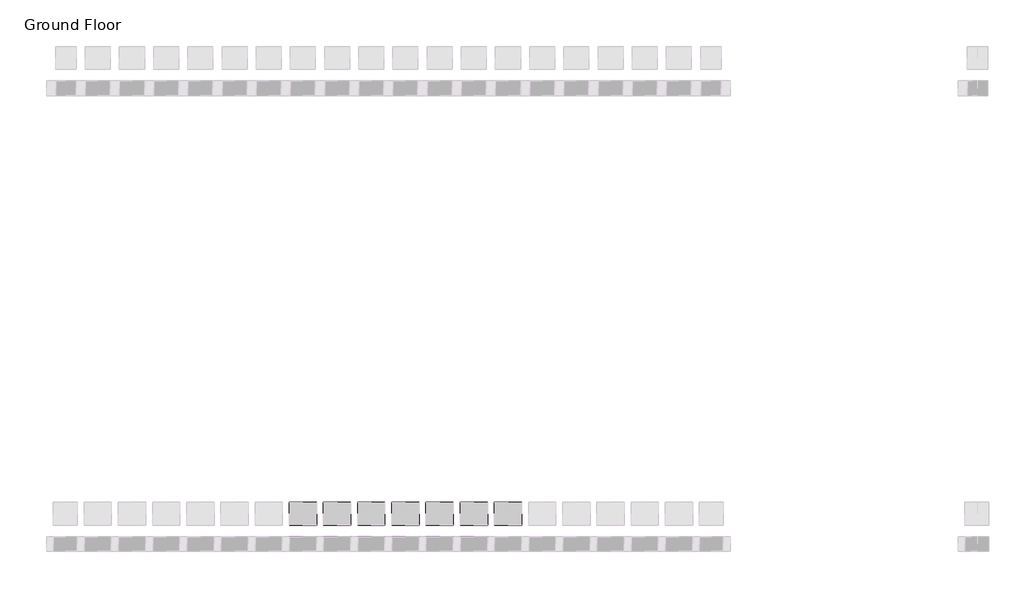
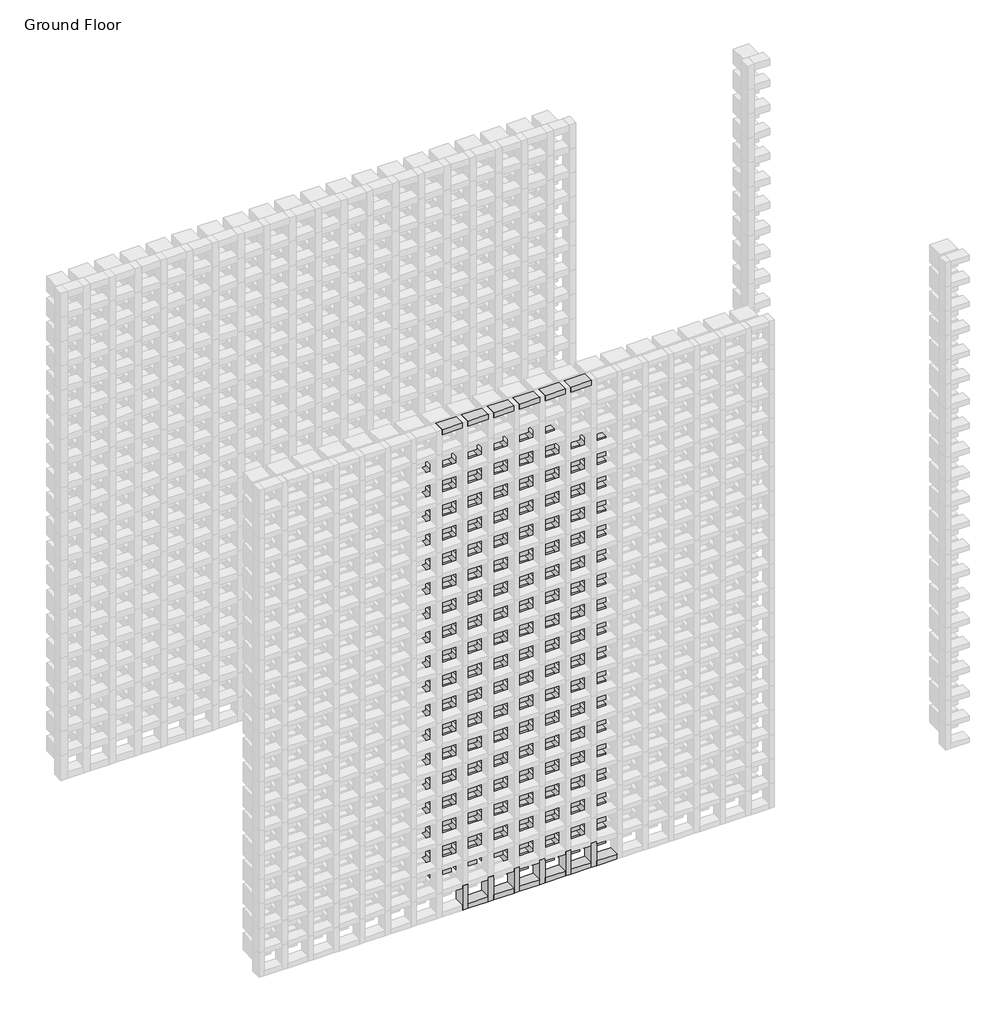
# One storey, part 68 of 350: 121 plates, 18 members.
"""IFC4 building model written with IfcOpenShell, lengths in millimetres."""

from ifc_helpers import new_model, si_unit, origin, place, context, project, spatial, transform, mapped, element, save
from components import rectangular_mullion_5b501421, rectangular_mullion_51467dcc, rectangular_mullion_d4c9a775, empty_system_panel_empty_a57e421f, empty_system_panel_empty_fe50b430

model = new_model("IFC4")

# Units and contexts
model_context = context("Model", 3, world=origin())
ifc_project = project(units=[si_unit("LENGTHUNIT", "METRE", prefix="MILLI")], contexts=[model_context])

# Site, building, storey
site = spatial("IfcSite", under=ifc_project)
building = spatial("IfcBuilding", under=site)
storey = spatial("IfcBuildingStorey", under=building, Name="Ground Floor", Elevation=0.0)

# Members
placement = place(None, origin())
rectangular_mullion_shape = rectangular_mullion_5b501421(model_context)
element("IfcMember", 1, ObjectType="Rectangular Mullion : Batten_Timber_Modinex_Austratus_Grid_Fascia_30x65_Hemlock", at=placement, inside=storey, context=model_context, shape_type="MappedRepresentation", body=[
    mapped(rectangular_mullion_shape, transform((11116.4361642, 38968.2978302, 0.0), x_axis=(1.0, 0.0, 0.0), y_axis=(0.0, -1.0, 0.0), z_axis=(0.0, 0.0, -1.0))),
])
element("IfcMember", 2, ObjectType="Rectangular Mullion : Batten_Timber_Modinex_Austratus_Grid_Fascia_30x65_Hemlock", at=placement, inside=storey, context=model_context, shape_type="MappedRepresentation", body=[
    mapped(rectangular_mullion_shape, transform((11266.4361642, 38968.2978302, 0.0), x_axis=(1.0, 0.0, 0.0), y_axis=(0.0, -1.0, 0.0), z_axis=(0.0, 0.0, -1.0))),
])
element("IfcMember", 3, ObjectType="Rectangular Mullion : Batten_Timber_Modinex_Austratus_Grid_Fascia_30x65_Hemlock", at=placement, inside=storey, context=model_context, shape_type="MappedRepresentation", body=[
    mapped(rectangular_mullion_shape, transform((11416.4361642, 38968.2978302, 0.0), x_axis=(1.0, 0.0, 0.0), y_axis=(0.0, -1.0, 0.0), z_axis=(0.0, 0.0, -1.0))),
])
element("IfcMember", 4, ObjectType="Rectangular Mullion : Batten_Timber_Modinex_Austratus_Grid_Fascia_30x65_Hemlock", at=placement, inside=storey, context=model_context, shape_type="MappedRepresentation", body=[
    mapped(rectangular_mullion_shape, transform((11566.4361642, 38968.2978302, 0.0), x_axis=(1.0, 0.0, 0.0), y_axis=(0.0, -1.0, 0.0), z_axis=(0.0, 0.0, -1.0))),
])
element("IfcMember", 5, ObjectType="Rectangular Mullion : Batten_Timber_Modinex_Austratus_Grid_Fascia_30x65_Hemlock", at=placement, inside=storey, context=model_context, shape_type="MappedRepresentation", body=[
    mapped(rectangular_mullion_shape, transform((11716.4361642, 38968.2978302, 0.0), x_axis=(1.0, 0.0, 0.0), y_axis=(0.0, -1.0, 0.0), z_axis=(0.0, 0.0, -1.0))),
])
element("IfcMember", 6, ObjectType="Rectangular Mullion : Batten_Timber_Modinex_Austratus_Grid_Fascia_30x65_Hemlock", at=placement, inside=storey, context=model_context, shape_type="MappedRepresentation", body=[
    mapped(rectangular_mullion_shape, transform((11866.4361642, 38968.2978302, 0.0), x_axis=(1.0, 0.0, 0.0), y_axis=(0.0, -1.0, 0.0), z_axis=(0.0, 0.0, -1.0))),
])
rectangular_mullion_2_shape = rectangular_mullion_51467dcc(model_context)
element("IfcMember", 7, ObjectType="Rectangular Mullion : Batten_Timber_Modinex_Austratus_Grid_Fascia_30x65_Hemlock", at=placement, inside=storey, context=model_context, shape_type="MappedRepresentation", body=[
    mapped(rectangular_mullion_2_shape, transform((11101.4361642, 38968.2978302, 3000.0), x_axis=(0.0, 0.0, 1.0), y_axis=(0.0, -1.0, 0.0), z_axis=(1.0, 0.0, 0.0))),
])
element("IfcMember", 8, ObjectType="Rectangular Mullion : Batten_Timber_Modinex_Austratus_Grid_Fascia_30x65_Hemlock", at=placement, inside=storey, context=model_context, shape_type="MappedRepresentation", body=[
    mapped(rectangular_mullion_2_shape, transform((11251.4361642, 38968.2978302, 3000.0), x_axis=(0.0, 0.0, 1.0), y_axis=(0.0, -1.0, 0.0), z_axis=(1.0, 0.0, 0.0))),
])
element("IfcMember", 9, ObjectType="Rectangular Mullion : Batten_Timber_Modinex_Austratus_Grid_Fascia_30x65_Hemlock", at=placement, inside=storey, context=model_context, shape_type="MappedRepresentation", body=[
    mapped(rectangular_mullion_2_shape, transform((11401.4361642, 38968.2978302, 3000.0), x_axis=(0.0, 0.0, 1.0), y_axis=(0.0, -1.0, 0.0), z_axis=(1.0, 0.0, 0.0))),
])
element("IfcMember", 10, ObjectType="Rectangular Mullion : Batten_Timber_Modinex_Austratus_Grid_Fascia_30x65_Hemlock", at=placement, inside=storey, context=model_context, shape_type="MappedRepresentation", body=[
    mapped(rectangular_mullion_2_shape, transform((11551.4361642, 38968.2978302, 3000.0), x_axis=(0.0, 0.0, 1.0), y_axis=(0.0, -1.0, 0.0), z_axis=(1.0, 0.0, 0.0))),
])
element("IfcMember", 11, ObjectType="Rectangular Mullion : Batten_Timber_Modinex_Austratus_Grid_Fascia_30x65_Hemlock", at=placement, inside=storey, context=model_context, shape_type="MappedRepresentation", body=[
    mapped(rectangular_mullion_2_shape, transform((11701.4361642, 38968.2978302, 3000.0), x_axis=(0.0, 0.0, 1.0), y_axis=(0.0, -1.0, 0.0), z_axis=(1.0, 0.0, 0.0))),
])
element("IfcMember", 12, ObjectType="Rectangular Mullion : Batten_Timber_Modinex_Austratus_Grid_Fascia_30x65_Hemlock", at=placement, inside=storey, context=model_context, shape_type="MappedRepresentation", body=[
    mapped(rectangular_mullion_2_shape, transform((11851.4361642, 38968.2978302, 3000.0), x_axis=(0.0, 0.0, 1.0), y_axis=(0.0, -1.0, 0.0), z_axis=(1.0, 0.0, 0.0))),
])
rectangular_mullion_3_shape = rectangular_mullion_d4c9a775(model_context)
element("IfcMember", 13, ObjectType="Rectangular Mullion : Batten_Timber_Modinex_Austratus_Grid_Fascia_30x65_Hemlock", at=placement, inside=storey, context=model_context, shape_type="MappedRepresentation", body=[
    mapped(rectangular_mullion_3_shape, transform((11131.4361642, 38968.2978302, 0.0), x_axis=(0.0, 0.0, -1.0), y_axis=(0.0, -1.0, 0.0), z_axis=(-1.0, 0.0, 0.0))),
])
element("IfcMember", 14, ObjectType="Rectangular Mullion : Batten_Timber_Modinex_Austratus_Grid_Fascia_30x65_Hemlock", at=placement, inside=storey, context=model_context, shape_type="MappedRepresentation", body=[
    mapped(rectangular_mullion_3_shape, transform((11281.4361642, 38968.2978302, 0.0), x_axis=(0.0, 0.0, -1.0), y_axis=(0.0, -1.0, 0.0), z_axis=(-1.0, 0.0, 0.0))),
])
element("IfcMember", 15, ObjectType="Rectangular Mullion : Batten_Timber_Modinex_Austratus_Grid_Fascia_30x65_Hemlock", at=placement, inside=storey, context=model_context, shape_type="MappedRepresentation", body=[
    mapped(rectangular_mullion_3_shape, transform((11431.4361642, 38968.2978302, 0.0), x_axis=(0.0, 0.0, -1.0), y_axis=(0.0, -1.0, 0.0), z_axis=(-1.0, 0.0, 0.0))),
])
element("IfcMember", 16, ObjectType="Rectangular Mullion : Batten_Timber_Modinex_Austratus_Grid_Fascia_30x65_Hemlock", at=placement, inside=storey, context=model_context, shape_type="MappedRepresentation", body=[
    mapped(rectangular_mullion_3_shape, transform((11581.4361642, 38968.2978302, 0.0), x_axis=(0.0, 0.0, -1.0), y_axis=(0.0, -1.0, 0.0), z_axis=(-1.0, 0.0, 0.0))),
])
element("IfcMember", 17, ObjectType="Rectangular Mullion : Batten_Timber_Modinex_Austratus_Grid_Fascia_30x65_Hemlock", at=placement, inside=storey, context=model_context, shape_type="MappedRepresentation", body=[
    mapped(rectangular_mullion_3_shape, transform((11731.4361642, 38968.2978302, 0.0), x_axis=(0.0, 0.0, -1.0), y_axis=(0.0, -1.0, 0.0), z_axis=(-1.0, 0.0, 0.0))),
])
element("IfcMember", 18, ObjectType="Rectangular Mullion : Batten_Timber_Modinex_Austratus_Grid_Fascia_30x65_Hemlock", at=placement, inside=storey, context=model_context, shape_type="MappedRepresentation", body=[
    mapped(rectangular_mullion_3_shape, transform((11881.4361642, 38968.2978302, 0.0), x_axis=(0.0, 0.0, -1.0), y_axis=(0.0, -1.0, 0.0), z_axis=(-1.0, 0.0, 0.0))),
])

# Plates
empty_system_panel_empty_shape = empty_system_panel_empty_a57e421f(model_context)
element("IfcPlate", 19, ObjectType="Empty System Panel : Empty", at=placement, inside=storey, context=model_context, shape_type="MappedRepresentation", body=[
    mapped(empty_system_panel_empty_shape, transform((11041.4361642, 38968.2978302, 165.0), x_axis=(1.0, 0.0, 0.0), y_axis=(0.0, 1.0, 0.0), z_axis=(0.0, 0.0, 1.0))),
])
element("IfcPlate", 20, ObjectType="Empty System Panel : Empty", at=placement, inside=storey, context=model_context, shape_type="MappedRepresentation", body=[
    mapped(empty_system_panel_empty_shape, transform((11191.4361642, 38968.2978302, 165.0), x_axis=(1.0, 0.0, 0.0), y_axis=(0.0, 1.0, 0.0), z_axis=(0.0, 0.0, 1.0))),
])
element("IfcPlate", 21, ObjectType="Empty System Panel : Empty", at=placement, inside=storey, context=model_context, shape_type="MappedRepresentation", body=[
    mapped(empty_system_panel_empty_shape, transform((11341.4361642, 38968.2978302, 165.0), x_axis=(1.0, 0.0, 0.0), y_axis=(0.0, 1.0, 0.0), z_axis=(0.0, 0.0, 1.0))),
])
element("IfcPlate", 22, ObjectType="Empty System Panel : Empty", at=placement, inside=storey, context=model_context, shape_type="MappedRepresentation", body=[
    mapped(empty_system_panel_empty_shape, transform((11491.4361642, 38968.2978302, 165.0), x_axis=(1.0, 0.0, 0.0), y_axis=(0.0, 1.0, 0.0), z_axis=(0.0, 0.0, 1.0))),
])
element("IfcPlate", 23, ObjectType="Empty System Panel : Empty", at=placement, inside=storey, context=model_context, shape_type="MappedRepresentation", body=[
    mapped(empty_system_panel_empty_shape, transform((11641.4361642, 38968.2978302, 165.0), x_axis=(1.0, 0.0, 0.0), y_axis=(0.0, 1.0, 0.0), z_axis=(0.0, 0.0, 1.0))),
])
element("IfcPlate", 24, ObjectType="Empty System Panel : Empty", at=placement, inside=storey, context=model_context, shape_type="MappedRepresentation", body=[
    mapped(empty_system_panel_empty_shape, transform((11791.4361642, 38968.2978302, 165.0), x_axis=(1.0, 0.0, 0.0), y_axis=(0.0, 1.0, 0.0), z_axis=(0.0, 0.0, 1.0))),
])
element("IfcPlate", 25, ObjectType="Empty System Panel : Empty", at=placement, inside=storey, context=model_context, shape_type="MappedRepresentation", body=[
    mapped(empty_system_panel_empty_shape, transform((11941.4361642, 38968.2978302, 165.0), x_axis=(1.0, 0.0, 0.0), y_axis=(0.0, 1.0, 0.0), z_axis=(0.0, 0.0, 1.0))),
])
element("IfcPlate", 26, ObjectType="Empty System Panel : Empty", at=placement, inside=storey, context=model_context, shape_type="MappedRepresentation", body=[
    mapped(empty_system_panel_empty_shape, transform((11041.4361642, 38968.2978302, 315.0), x_axis=(1.0, 0.0, 0.0), y_axis=(0.0, 1.0, 0.0), z_axis=(0.0, 0.0, 1.0))),
])
element("IfcPlate", 27, ObjectType="Empty System Panel : Empty", at=placement, inside=storey, context=model_context, shape_type="MappedRepresentation", body=[
    mapped(empty_system_panel_empty_shape, transform((11191.4361642, 38968.2978302, 315.0), x_axis=(1.0, 0.0, 0.0), y_axis=(0.0, 1.0, 0.0), z_axis=(0.0, 0.0, 1.0))),
])
element("IfcPlate", 28, ObjectType="Empty System Panel : Empty", at=placement, inside=storey, context=model_context, shape_type="MappedRepresentation", body=[
    mapped(empty_system_panel_empty_shape, transform((11341.4361642, 38968.2978302, 315.0), x_axis=(1.0, 0.0, 0.0), y_axis=(0.0, 1.0, 0.0), z_axis=(0.0, 0.0, 1.0))),
])
element("IfcPlate", 29, ObjectType="Empty System Panel : Empty", at=placement, inside=storey, context=model_context, shape_type="MappedRepresentation", body=[
    mapped(empty_system_panel_empty_shape, transform((11491.4361642, 38968.2978302, 315.0), x_axis=(1.0, 0.0, 0.0), y_axis=(0.0, 1.0, 0.0), z_axis=(0.0, 0.0, 1.0))),
])
element("IfcPlate", 30, ObjectType="Empty System Panel : Empty", at=placement, inside=storey, context=model_context, shape_type="MappedRepresentation", body=[
    mapped(empty_system_panel_empty_shape, transform((11641.4361642, 38968.2978302, 315.0), x_axis=(1.0, 0.0, 0.0), y_axis=(0.0, 1.0, 0.0), z_axis=(0.0, 0.0, 1.0))),
])
element("IfcPlate", 31, ObjectType="Empty System Panel : Empty", at=placement, inside=storey, context=model_context, shape_type="MappedRepresentation", body=[
    mapped(empty_system_panel_empty_shape, transform((11791.4361642, 38968.2978302, 315.0), x_axis=(1.0, 0.0, 0.0), y_axis=(0.0, 1.0, 0.0), z_axis=(0.0, 0.0, 1.0))),
])
element("IfcPlate", 32, ObjectType="Empty System Panel : Empty", at=placement, inside=storey, context=model_context, shape_type="MappedRepresentation", body=[
    mapped(empty_system_panel_empty_shape, transform((11941.4361642, 38968.2978302, 315.0), x_axis=(1.0, 0.0, 0.0), y_axis=(0.0, 1.0, 0.0), z_axis=(0.0, 0.0, 1.0))),
])
element("IfcPlate", 33, ObjectType="Empty System Panel : Empty", at=placement, inside=storey, context=model_context, shape_type="MappedRepresentation", body=[
    mapped(empty_system_panel_empty_shape, transform((11041.4361642, 38968.2978302, 465.0), x_axis=(1.0, 0.0, 0.0), y_axis=(0.0, 1.0, 0.0), z_axis=(0.0, 0.0, 1.0))),
])
element("IfcPlate", 34, ObjectType="Empty System Panel : Empty", at=placement, inside=storey, context=model_context, shape_type="MappedRepresentation", body=[
    mapped(empty_system_panel_empty_shape, transform((11191.4361642, 38968.2978302, 465.0), x_axis=(1.0, 0.0, 0.0), y_axis=(0.0, 1.0, 0.0), z_axis=(0.0, 0.0, 1.0))),
])
element("IfcPlate", 35, ObjectType="Empty System Panel : Empty", at=placement, inside=storey, context=model_context, shape_type="MappedRepresentation", body=[
    mapped(empty_system_panel_empty_shape, transform((11341.4361642, 38968.2978302, 465.0), x_axis=(1.0, 0.0, 0.0), y_axis=(0.0, 1.0, 0.0), z_axis=(0.0, 0.0, 1.0))),
])
element("IfcPlate", 36, ObjectType="Empty System Panel : Empty", at=placement, inside=storey, context=model_context, shape_type="MappedRepresentation", body=[
    mapped(empty_system_panel_empty_shape, transform((11491.4361642, 38968.2978302, 465.0), x_axis=(1.0, 0.0, 0.0), y_axis=(0.0, 1.0, 0.0), z_axis=(0.0, 0.0, 1.0))),
])
element("IfcPlate", 37, ObjectType="Empty System Panel : Empty", at=placement, inside=storey, context=model_context, shape_type="MappedRepresentation", body=[
    mapped(empty_system_panel_empty_shape, transform((11641.4361642, 38968.2978302, 465.0), x_axis=(1.0, 0.0, 0.0), y_axis=(0.0, 1.0, 0.0), z_axis=(0.0, 0.0, 1.0))),
])
element("IfcPlate", 38, ObjectType="Empty System Panel : Empty", at=placement, inside=storey, context=model_context, shape_type="MappedRepresentation", body=[
    mapped(empty_system_panel_empty_shape, transform((11791.4361642, 38968.2978302, 465.0), x_axis=(1.0, 0.0, 0.0), y_axis=(0.0, 1.0, 0.0), z_axis=(0.0, 0.0, 1.0))),
])
element("IfcPlate", 39, ObjectType="Empty System Panel : Empty", at=placement, inside=storey, context=model_context, shape_type="MappedRepresentation", body=[
    mapped(empty_system_panel_empty_shape, transform((11941.4361642, 38968.2978302, 465.0), x_axis=(1.0, 0.0, 0.0), y_axis=(0.0, 1.0, 0.0), z_axis=(0.0, 0.0, 1.0))),
])
element("IfcPlate", 40, ObjectType="Empty System Panel : Empty", at=placement, inside=storey, context=model_context, shape_type="MappedRepresentation", body=[
    mapped(empty_system_panel_empty_shape, transform((11041.4361642, 38968.2978302, 615.0), x_axis=(1.0, 0.0, 0.0), y_axis=(0.0, 1.0, 0.0), z_axis=(0.0, 0.0, 1.0))),
])
element("IfcPlate", 41, ObjectType="Empty System Panel : Empty", at=placement, inside=storey, context=model_context, shape_type="MappedRepresentation", body=[
    mapped(empty_system_panel_empty_shape, transform((11191.4361642, 38968.2978302, 615.0), x_axis=(1.0, 0.0, 0.0), y_axis=(0.0, 1.0, 0.0), z_axis=(0.0, 0.0, 1.0))),
])
element("IfcPlate", 42, ObjectType="Empty System Panel : Empty", at=placement, inside=storey, context=model_context, shape_type="MappedRepresentation", body=[
    mapped(empty_system_panel_empty_shape, transform((11341.4361642, 38968.2978302, 615.0), x_axis=(1.0, 0.0, 0.0), y_axis=(0.0, 1.0, 0.0), z_axis=(0.0, 0.0, 1.0))),
])
element("IfcPlate", 43, ObjectType="Empty System Panel : Empty", at=placement, inside=storey, context=model_context, shape_type="MappedRepresentation", body=[
    mapped(empty_system_panel_empty_shape, transform((11491.4361642, 38968.2978302, 615.0), x_axis=(1.0, 0.0, 0.0), y_axis=(0.0, 1.0, 0.0), z_axis=(0.0, 0.0, 1.0))),
])
element("IfcPlate", 44, ObjectType="Empty System Panel : Empty", at=placement, inside=storey, context=model_context, shape_type="MappedRepresentation", body=[
    mapped(empty_system_panel_empty_shape, transform((11641.4361642, 38968.2978302, 615.0), x_axis=(1.0, 0.0, 0.0), y_axis=(0.0, 1.0, 0.0), z_axis=(0.0, 0.0, 1.0))),
])
element("IfcPlate", 45, ObjectType="Empty System Panel : Empty", at=placement, inside=storey, context=model_context, shape_type="MappedRepresentation", body=[
    mapped(empty_system_panel_empty_shape, transform((11791.4361642, 38968.2978302, 615.0), x_axis=(1.0, 0.0, 0.0), y_axis=(0.0, 1.0, 0.0), z_axis=(0.0, 0.0, 1.0))),
])
element("IfcPlate", 46, ObjectType="Empty System Panel : Empty", at=placement, inside=storey, context=model_context, shape_type="MappedRepresentation", body=[
    mapped(empty_system_panel_empty_shape, transform((11941.4361642, 38968.2978302, 615.0), x_axis=(1.0, 0.0, 0.0), y_axis=(0.0, 1.0, 0.0), z_axis=(0.0, 0.0, 1.0))),
])
element("IfcPlate", 47, ObjectType="Empty System Panel : Empty", at=placement, inside=storey, context=model_context, shape_type="MappedRepresentation", body=[
    mapped(empty_system_panel_empty_shape, transform((11041.4361642, 38968.2978302, 765.0), x_axis=(1.0, 0.0, 0.0), y_axis=(0.0, 1.0, 0.0), z_axis=(0.0, 0.0, 1.0))),
])
element("IfcPlate", 48, ObjectType="Empty System Panel : Empty", at=placement, inside=storey, context=model_context, shape_type="MappedRepresentation", body=[
    mapped(empty_system_panel_empty_shape, transform((11191.4361642, 38968.2978302, 765.0), x_axis=(1.0, 0.0, 0.0), y_axis=(0.0, 1.0, 0.0), z_axis=(0.0, 0.0, 1.0))),
])
element("IfcPlate", 49, ObjectType="Empty System Panel : Empty", at=placement, inside=storey, context=model_context, shape_type="MappedRepresentation", body=[
    mapped(empty_system_panel_empty_shape, transform((11341.4361642, 38968.2978302, 765.0), x_axis=(1.0, 0.0, 0.0), y_axis=(0.0, 1.0, 0.0), z_axis=(0.0, 0.0, 1.0))),
])
element("IfcPlate", 50, ObjectType="Empty System Panel : Empty", at=placement, inside=storey, context=model_context, shape_type="MappedRepresentation", body=[
    mapped(empty_system_panel_empty_shape, transform((11491.4361642, 38968.2978302, 765.0), x_axis=(1.0, 0.0, 0.0), y_axis=(0.0, 1.0, 0.0), z_axis=(0.0, 0.0, 1.0))),
])
element("IfcPlate", 51, ObjectType="Empty System Panel : Empty", at=placement, inside=storey, context=model_context, shape_type="MappedRepresentation", body=[
    mapped(empty_system_panel_empty_shape, transform((11641.4361642, 38968.2978302, 765.0), x_axis=(1.0, 0.0, 0.0), y_axis=(0.0, 1.0, 0.0), z_axis=(0.0, 0.0, 1.0))),
])
element("IfcPlate", 52, ObjectType="Empty System Panel : Empty", at=placement, inside=storey, context=model_context, shape_type="MappedRepresentation", body=[
    mapped(empty_system_panel_empty_shape, transform((11791.4361642, 38968.2978302, 765.0), x_axis=(1.0, 0.0, 0.0), y_axis=(0.0, 1.0, 0.0), z_axis=(0.0, 0.0, 1.0))),
])
element("IfcPlate", 53, ObjectType="Empty System Panel : Empty", at=placement, inside=storey, context=model_context, shape_type="MappedRepresentation", body=[
    mapped(empty_system_panel_empty_shape, transform((11941.4361642, 38968.2978302, 765.0), x_axis=(1.0, 0.0, 0.0), y_axis=(0.0, 1.0, 0.0), z_axis=(0.0, 0.0, 1.0))),
])
element("IfcPlate", 54, ObjectType="Empty System Panel : Empty", at=placement, inside=storey, context=model_context, shape_type="MappedRepresentation", body=[
    mapped(empty_system_panel_empty_shape, transform((11041.4361642, 38968.2978302, 915.0), x_axis=(1.0, 0.0, 0.0), y_axis=(0.0, 1.0, 0.0), z_axis=(0.0, 0.0, 1.0))),
])
element("IfcPlate", 55, ObjectType="Empty System Panel : Empty", at=placement, inside=storey, context=model_context, shape_type="MappedRepresentation", body=[
    mapped(empty_system_panel_empty_shape, transform((11191.4361642, 38968.2978302, 915.0), x_axis=(1.0, 0.0, 0.0), y_axis=(0.0, 1.0, 0.0), z_axis=(0.0, 0.0, 1.0))),
])
element("IfcPlate", 56, ObjectType="Empty System Panel : Empty", at=placement, inside=storey, context=model_context, shape_type="MappedRepresentation", body=[
    mapped(empty_system_panel_empty_shape, transform((11341.4361642, 38968.2978302, 915.0), x_axis=(1.0, 0.0, 0.0), y_axis=(0.0, 1.0, 0.0), z_axis=(0.0, 0.0, 1.0))),
])
element("IfcPlate", 57, ObjectType="Empty System Panel : Empty", at=placement, inside=storey, context=model_context, shape_type="MappedRepresentation", body=[
    mapped(empty_system_panel_empty_shape, transform((11491.4361642, 38968.2978302, 915.0), x_axis=(1.0, 0.0, 0.0), y_axis=(0.0, 1.0, 0.0), z_axis=(0.0, 0.0, 1.0))),
])
element("IfcPlate", 58, ObjectType="Empty System Panel : Empty", at=placement, inside=storey, context=model_context, shape_type="MappedRepresentation", body=[
    mapped(empty_system_panel_empty_shape, transform((11641.4361642, 38968.2978302, 915.0), x_axis=(1.0, 0.0, 0.0), y_axis=(0.0, 1.0, 0.0), z_axis=(0.0, 0.0, 1.0))),
])
element("IfcPlate", 59, ObjectType="Empty System Panel : Empty", at=placement, inside=storey, context=model_context, shape_type="MappedRepresentation", body=[
    mapped(empty_system_panel_empty_shape, transform((11791.4361642, 38968.2978302, 915.0), x_axis=(1.0, 0.0, 0.0), y_axis=(0.0, 1.0, 0.0), z_axis=(0.0, 0.0, 1.0))),
])
element("IfcPlate", 60, ObjectType="Empty System Panel : Empty", at=placement, inside=storey, context=model_context, shape_type="MappedRepresentation", body=[
    mapped(empty_system_panel_empty_shape, transform((11941.4361642, 38968.2978302, 915.0), x_axis=(1.0, 0.0, 0.0), y_axis=(0.0, 1.0, 0.0), z_axis=(0.0, 0.0, 1.0))),
])
element("IfcPlate", 61, ObjectType="Empty System Panel : Empty", at=placement, inside=storey, context=model_context, shape_type="MappedRepresentation", body=[
    mapped(empty_system_panel_empty_shape, transform((11041.4361642, 38968.2978302, 1065.0), x_axis=(1.0, 0.0, 0.0), y_axis=(0.0, 1.0, 0.0), z_axis=(0.0, 0.0, 1.0))),
])
element("IfcPlate", 62, ObjectType="Empty System Panel : Empty", at=placement, inside=storey, context=model_context, shape_type="MappedRepresentation", body=[
    mapped(empty_system_panel_empty_shape, transform((11191.4361642, 38968.2978302, 1065.0), x_axis=(1.0, 0.0, 0.0), y_axis=(0.0, 1.0, 0.0), z_axis=(0.0, 0.0, 1.0))),
])
element("IfcPlate", 63, ObjectType="Empty System Panel : Empty", at=placement, inside=storey, context=model_context, shape_type="MappedRepresentation", body=[
    mapped(empty_system_panel_empty_shape, transform((11341.4361642, 38968.2978302, 1065.0), x_axis=(1.0, 0.0, 0.0), y_axis=(0.0, 1.0, 0.0), z_axis=(0.0, 0.0, 1.0))),
])
element("IfcPlate", 64, ObjectType="Empty System Panel : Empty", at=placement, inside=storey, context=model_context, shape_type="MappedRepresentation", body=[
    mapped(empty_system_panel_empty_shape, transform((11491.4361642, 38968.2978302, 1065.0), x_axis=(1.0, 0.0, 0.0), y_axis=(0.0, 1.0, 0.0), z_axis=(0.0, 0.0, 1.0))),
])
element("IfcPlate", 65, ObjectType="Empty System Panel : Empty", at=placement, inside=storey, context=model_context, shape_type="MappedRepresentation", body=[
    mapped(empty_system_panel_empty_shape, transform((11641.4361642, 38968.2978302, 1065.0), x_axis=(1.0, 0.0, 0.0), y_axis=(0.0, 1.0, 0.0), z_axis=(0.0, 0.0, 1.0))),
])
element("IfcPlate", 66, ObjectType="Empty System Panel : Empty", at=placement, inside=storey, context=model_context, shape_type="MappedRepresentation", body=[
    mapped(empty_system_panel_empty_shape, transform((11791.4361642, 38968.2978302, 1065.0), x_axis=(1.0, 0.0, 0.0), y_axis=(0.0, 1.0, 0.0), z_axis=(0.0, 0.0, 1.0))),
])
element("IfcPlate", 67, ObjectType="Empty System Panel : Empty", at=placement, inside=storey, context=model_context, shape_type="MappedRepresentation", body=[
    mapped(empty_system_panel_empty_shape, transform((11941.4361642, 38968.2978302, 1065.0), x_axis=(1.0, 0.0, 0.0), y_axis=(0.0, 1.0, 0.0), z_axis=(0.0, 0.0, 1.0))),
])
element("IfcPlate", 68, ObjectType="Empty System Panel : Empty", at=placement, inside=storey, context=model_context, shape_type="MappedRepresentation", body=[
    mapped(empty_system_panel_empty_shape, transform((11041.4361642, 38968.2978302, 1215.0), x_axis=(1.0, 0.0, 0.0), y_axis=(0.0, 1.0, 0.0), z_axis=(0.0, 0.0, 1.0))),
])
element("IfcPlate", 69, ObjectType="Empty System Panel : Empty", at=placement, inside=storey, context=model_context, shape_type="MappedRepresentation", body=[
    mapped(empty_system_panel_empty_shape, transform((11191.4361642, 38968.2978302, 1215.0), x_axis=(1.0, 0.0, 0.0), y_axis=(0.0, 1.0, 0.0), z_axis=(0.0, 0.0, 1.0))),
])
element("IfcPlate", 70, ObjectType="Empty System Panel : Empty", at=placement, inside=storey, context=model_context, shape_type="MappedRepresentation", body=[
    mapped(empty_system_panel_empty_shape, transform((11341.4361642, 38968.2978302, 1215.0), x_axis=(1.0, 0.0, 0.0), y_axis=(0.0, 1.0, 0.0), z_axis=(0.0, 0.0, 1.0))),
])
element("IfcPlate", 71, ObjectType="Empty System Panel : Empty", at=placement, inside=storey, context=model_context, shape_type="MappedRepresentation", body=[
    mapped(empty_system_panel_empty_shape, transform((11491.4361642, 38968.2978302, 1215.0), x_axis=(1.0, 0.0, 0.0), y_axis=(0.0, 1.0, 0.0), z_axis=(0.0, 0.0, 1.0))),
])
element("IfcPlate", 72, ObjectType="Empty System Panel : Empty", at=placement, inside=storey, context=model_context, shape_type="MappedRepresentation", body=[
    mapped(empty_system_panel_empty_shape, transform((11641.4361642, 38968.2978302, 1215.0), x_axis=(1.0, 0.0, 0.0), y_axis=(0.0, 1.0, 0.0), z_axis=(0.0, 0.0, 1.0))),
])
element("IfcPlate", 73, ObjectType="Empty System Panel : Empty", at=placement, inside=storey, context=model_context, shape_type="MappedRepresentation", body=[
    mapped(empty_system_panel_empty_shape, transform((11791.4361642, 38968.2978302, 1215.0), x_axis=(1.0, 0.0, 0.0), y_axis=(0.0, 1.0, 0.0), z_axis=(0.0, 0.0, 1.0))),
])
element("IfcPlate", 74, ObjectType="Empty System Panel : Empty", at=placement, inside=storey, context=model_context, shape_type="MappedRepresentation", body=[
    mapped(empty_system_panel_empty_shape, transform((11941.4361642, 38968.2978302, 1215.0), x_axis=(1.0, 0.0, 0.0), y_axis=(0.0, 1.0, 0.0), z_axis=(0.0, 0.0, 1.0))),
])
element("IfcPlate", 75, ObjectType="Empty System Panel : Empty", at=placement, inside=storey, context=model_context, shape_type="MappedRepresentation", body=[
    mapped(empty_system_panel_empty_shape, transform((11041.4361642, 38968.2978302, 1365.0), x_axis=(1.0, 0.0, 0.0), y_axis=(0.0, 1.0, 0.0), z_axis=(0.0, 0.0, 1.0))),
])
element("IfcPlate", 76, ObjectType="Empty System Panel : Empty", at=placement, inside=storey, context=model_context, shape_type="MappedRepresentation", body=[
    mapped(empty_system_panel_empty_shape, transform((11191.4361642, 38968.2978302, 1365.0), x_axis=(1.0, 0.0, 0.0), y_axis=(0.0, 1.0, 0.0), z_axis=(0.0, 0.0, 1.0))),
])
element("IfcPlate", 77, ObjectType="Empty System Panel : Empty", at=placement, inside=storey, context=model_context, shape_type="MappedRepresentation", body=[
    mapped(empty_system_panel_empty_shape, transform((11341.4361642, 38968.2978302, 1365.0), x_axis=(1.0, 0.0, 0.0), y_axis=(0.0, 1.0, 0.0), z_axis=(0.0, 0.0, 1.0))),
])
element("IfcPlate", 78, ObjectType="Empty System Panel : Empty", at=placement, inside=storey, context=model_context, shape_type="MappedRepresentation", body=[
    mapped(empty_system_panel_empty_shape, transform((11491.4361642, 38968.2978302, 1365.0), x_axis=(1.0, 0.0, 0.0), y_axis=(0.0, 1.0, 0.0), z_axis=(0.0, 0.0, 1.0))),
])
element("IfcPlate", 79, ObjectType="Empty System Panel : Empty", at=placement, inside=storey, context=model_context, shape_type="MappedRepresentation", body=[
    mapped(empty_system_panel_empty_shape, transform((11641.4361642, 38968.2978302, 1365.0), x_axis=(1.0, 0.0, 0.0), y_axis=(0.0, 1.0, 0.0), z_axis=(0.0, 0.0, 1.0))),
])
element("IfcPlate", 80, ObjectType="Empty System Panel : Empty", at=placement, inside=storey, context=model_context, shape_type="MappedRepresentation", body=[
    mapped(empty_system_panel_empty_shape, transform((11791.4361642, 38968.2978302, 1365.0), x_axis=(1.0, 0.0, 0.0), y_axis=(0.0, 1.0, 0.0), z_axis=(0.0, 0.0, 1.0))),
])
element("IfcPlate", 81, ObjectType="Empty System Panel : Empty", at=placement, inside=storey, context=model_context, shape_type="MappedRepresentation", body=[
    mapped(empty_system_panel_empty_shape, transform((11941.4361642, 38968.2978302, 1365.0), x_axis=(1.0, 0.0, 0.0), y_axis=(0.0, 1.0, 0.0), z_axis=(0.0, 0.0, 1.0))),
])
element("IfcPlate", 82, ObjectType="Empty System Panel : Empty", at=placement, inside=storey, context=model_context, shape_type="MappedRepresentation", body=[
    mapped(empty_system_panel_empty_shape, transform((11041.4361642, 38968.2978302, 1515.0), x_axis=(1.0, 0.0, 0.0), y_axis=(0.0, 1.0, 0.0), z_axis=(0.0, 0.0, 1.0))),
])
element("IfcPlate", 83, ObjectType="Empty System Panel : Empty", at=placement, inside=storey, context=model_context, shape_type="MappedRepresentation", body=[
    mapped(empty_system_panel_empty_shape, transform((11191.4361642, 38968.2978302, 1515.0), x_axis=(1.0, 0.0, 0.0), y_axis=(0.0, 1.0, 0.0), z_axis=(0.0, 0.0, 1.0))),
])
element("IfcPlate", 84, ObjectType="Empty System Panel : Empty", at=placement, inside=storey, context=model_context, shape_type="MappedRepresentation", body=[
    mapped(empty_system_panel_empty_shape, transform((11341.4361642, 38968.2978302, 1515.0), x_axis=(1.0, 0.0, 0.0), y_axis=(0.0, 1.0, 0.0), z_axis=(0.0, 0.0, 1.0))),
])
element("IfcPlate", 85, ObjectType="Empty System Panel : Empty", at=placement, inside=storey, context=model_context, shape_type="MappedRepresentation", body=[
    mapped(empty_system_panel_empty_shape, transform((11491.4361642, 38968.2978302, 1515.0), x_axis=(1.0, 0.0, 0.0), y_axis=(0.0, 1.0, 0.0), z_axis=(0.0, 0.0, 1.0))),
])
element("IfcPlate", 86, ObjectType="Empty System Panel : Empty", at=placement, inside=storey, context=model_context, shape_type="MappedRepresentation", body=[
    mapped(empty_system_panel_empty_shape, transform((11641.4361642, 38968.2978302, 1515.0), x_axis=(1.0, 0.0, 0.0), y_axis=(0.0, 1.0, 0.0), z_axis=(0.0, 0.0, 1.0))),
])
element("IfcPlate", 87, ObjectType="Empty System Panel : Empty", at=placement, inside=storey, context=model_context, shape_type="MappedRepresentation", body=[
    mapped(empty_system_panel_empty_shape, transform((11791.4361642, 38968.2978302, 1515.0), x_axis=(1.0, 0.0, 0.0), y_axis=(0.0, 1.0, 0.0), z_axis=(0.0, 0.0, 1.0))),
])
element("IfcPlate", 88, ObjectType="Empty System Panel : Empty", at=placement, inside=storey, context=model_context, shape_type="MappedRepresentation", body=[
    mapped(empty_system_panel_empty_shape, transform((11941.4361642, 38968.2978302, 1515.0), x_axis=(1.0, 0.0, 0.0), y_axis=(0.0, 1.0, 0.0), z_axis=(0.0, 0.0, 1.0))),
])
element("IfcPlate", 89, ObjectType="Empty System Panel : Empty", at=placement, inside=storey, context=model_context, shape_type="MappedRepresentation", body=[
    mapped(empty_system_panel_empty_shape, transform((11041.4361642, 38968.2978302, 1665.0), x_axis=(1.0, 0.0, 0.0), y_axis=(0.0, 1.0, 0.0), z_axis=(0.0, 0.0, 1.0))),
])
element("IfcPlate", 90, ObjectType="Empty System Panel : Empty", at=placement, inside=storey, context=model_context, shape_type="MappedRepresentation", body=[
    mapped(empty_system_panel_empty_shape, transform((11191.4361642, 38968.2978302, 1665.0), x_axis=(1.0, 0.0, 0.0), y_axis=(0.0, 1.0, 0.0), z_axis=(0.0, 0.0, 1.0))),
])
element("IfcPlate", 91, ObjectType="Empty System Panel : Empty", at=placement, inside=storey, context=model_context, shape_type="MappedRepresentation", body=[
    mapped(empty_system_panel_empty_shape, transform((11341.4361642, 38968.2978302, 1665.0), x_axis=(1.0, 0.0, 0.0), y_axis=(0.0, 1.0, 0.0), z_axis=(0.0, 0.0, 1.0))),
])
element("IfcPlate", 92, ObjectType="Empty System Panel : Empty", at=placement, inside=storey, context=model_context, shape_type="MappedRepresentation", body=[
    mapped(empty_system_panel_empty_shape, transform((11491.4361642, 38968.2978302, 1665.0), x_axis=(1.0, 0.0, 0.0), y_axis=(0.0, 1.0, 0.0), z_axis=(0.0, 0.0, 1.0))),
])
element("IfcPlate", 93, ObjectType="Empty System Panel : Empty", at=placement, inside=storey, context=model_context, shape_type="MappedRepresentation", body=[
    mapped(empty_system_panel_empty_shape, transform((11641.4361642, 38968.2978302, 1665.0), x_axis=(1.0, 0.0, 0.0), y_axis=(0.0, 1.0, 0.0), z_axis=(0.0, 0.0, 1.0))),
])
element("IfcPlate", 94, ObjectType="Empty System Panel : Empty", at=placement, inside=storey, context=model_context, shape_type="MappedRepresentation", body=[
    mapped(empty_system_panel_empty_shape, transform((11791.4361642, 38968.2978302, 1665.0), x_axis=(1.0, 0.0, 0.0), y_axis=(0.0, 1.0, 0.0), z_axis=(0.0, 0.0, 1.0))),
])
element("IfcPlate", 95, ObjectType="Empty System Panel : Empty", at=placement, inside=storey, context=model_context, shape_type="MappedRepresentation", body=[
    mapped(empty_system_panel_empty_shape, transform((11941.4361642, 38968.2978302, 1665.0), x_axis=(1.0, 0.0, 0.0), y_axis=(0.0, 1.0, 0.0), z_axis=(0.0, 0.0, 1.0))),
])
element("IfcPlate", 96, ObjectType="Empty System Panel : Empty", at=placement, inside=storey, context=model_context, shape_type="MappedRepresentation", body=[
    mapped(empty_system_panel_empty_shape, transform((11041.4361642, 38968.2978302, 1815.0), x_axis=(1.0, 0.0, 0.0), y_axis=(0.0, 1.0, 0.0), z_axis=(0.0, 0.0, 1.0))),
])
element("IfcPlate", 97, ObjectType="Empty System Panel : Empty", at=placement, inside=storey, context=model_context, shape_type="MappedRepresentation", body=[
    mapped(empty_system_panel_empty_shape, transform((11191.4361642, 38968.2978302, 1815.0), x_axis=(1.0, 0.0, 0.0), y_axis=(0.0, 1.0, 0.0), z_axis=(0.0, 0.0, 1.0))),
])
element("IfcPlate", 98, ObjectType="Empty System Panel : Empty", at=placement, inside=storey, context=model_context, shape_type="MappedRepresentation", body=[
    mapped(empty_system_panel_empty_shape, transform((11341.4361642, 38968.2978302, 1815.0), x_axis=(1.0, 0.0, 0.0), y_axis=(0.0, 1.0, 0.0), z_axis=(0.0, 0.0, 1.0))),
])
element("IfcPlate", 99, ObjectType="Empty System Panel : Empty", at=placement, inside=storey, context=model_context, shape_type="MappedRepresentation", body=[
    mapped(empty_system_panel_empty_shape, transform((11491.4361642, 38968.2978302, 1815.0), x_axis=(1.0, 0.0, 0.0), y_axis=(0.0, 1.0, 0.0), z_axis=(0.0, 0.0, 1.0))),
])
element("IfcPlate", 100, ObjectType="Empty System Panel : Empty", at=placement, inside=storey, context=model_context, shape_type="MappedRepresentation", body=[
    mapped(empty_system_panel_empty_shape, transform((11641.4361642, 38968.2978302, 1815.0), x_axis=(1.0, 0.0, 0.0), y_axis=(0.0, 1.0, 0.0), z_axis=(0.0, 0.0, 1.0))),
])
element("IfcPlate", 101, ObjectType="Empty System Panel : Empty", at=placement, inside=storey, context=model_context, shape_type="MappedRepresentation", body=[
    mapped(empty_system_panel_empty_shape, transform((11791.4361642, 38968.2978302, 1815.0), x_axis=(1.0, 0.0, 0.0), y_axis=(0.0, 1.0, 0.0), z_axis=(0.0, 0.0, 1.0))),
])
element("IfcPlate", 102, ObjectType="Empty System Panel : Empty", at=placement, inside=storey, context=model_context, shape_type="MappedRepresentation", body=[
    mapped(empty_system_panel_empty_shape, transform((11941.4361642, 38968.2978302, 1815.0), x_axis=(1.0, 0.0, 0.0), y_axis=(0.0, 1.0, 0.0), z_axis=(0.0, 0.0, 1.0))),
])
element("IfcPlate", 103, ObjectType="Empty System Panel : Empty", at=placement, inside=storey, context=model_context, shape_type="MappedRepresentation", body=[
    mapped(empty_system_panel_empty_shape, transform((11041.4361642, 38968.2978302, 1965.0), x_axis=(1.0, 0.0, 0.0), y_axis=(0.0, 1.0, 0.0), z_axis=(0.0, 0.0, 1.0))),
])
element("IfcPlate", 104, ObjectType="Empty System Panel : Empty", at=placement, inside=storey, context=model_context, shape_type="MappedRepresentation", body=[
    mapped(empty_system_panel_empty_shape, transform((11191.4361642, 38968.2978302, 1965.0), x_axis=(1.0, 0.0, 0.0), y_axis=(0.0, 1.0, 0.0), z_axis=(0.0, 0.0, 1.0))),
])
element("IfcPlate", 105, ObjectType="Empty System Panel : Empty", at=placement, inside=storey, context=model_context, shape_type="MappedRepresentation", body=[
    mapped(empty_system_panel_empty_shape, transform((11341.4361642, 38968.2978302, 1965.0), x_axis=(1.0, 0.0, 0.0), y_axis=(0.0, 1.0, 0.0), z_axis=(0.0, 0.0, 1.0))),
])
element("IfcPlate", 106, ObjectType="Empty System Panel : Empty", at=placement, inside=storey, context=model_context, shape_type="MappedRepresentation", body=[
    mapped(empty_system_panel_empty_shape, transform((11491.4361642, 38968.2978302, 1965.0), x_axis=(1.0, 0.0, 0.0), y_axis=(0.0, 1.0, 0.0), z_axis=(0.0, 0.0, 1.0))),
])
element("IfcPlate", 107, ObjectType="Empty System Panel : Empty", at=placement, inside=storey, context=model_context, shape_type="MappedRepresentation", body=[
    mapped(empty_system_panel_empty_shape, transform((11641.4361642, 38968.2978302, 1965.0), x_axis=(1.0, 0.0, 0.0), y_axis=(0.0, 1.0, 0.0), z_axis=(0.0, 0.0, 1.0))),
])
element("IfcPlate", 108, ObjectType="Empty System Panel : Empty", at=placement, inside=storey, context=model_context, shape_type="MappedRepresentation", body=[
    mapped(empty_system_panel_empty_shape, transform((11791.4361642, 38968.2978302, 1965.0), x_axis=(1.0, 0.0, 0.0), y_axis=(0.0, 1.0, 0.0), z_axis=(0.0, 0.0, 1.0))),
])
element("IfcPlate", 109, ObjectType="Empty System Panel : Empty", at=placement, inside=storey, context=model_context, shape_type="MappedRepresentation", body=[
    mapped(empty_system_panel_empty_shape, transform((11941.4361642, 38968.2978302, 1965.0), x_axis=(1.0, 0.0, 0.0), y_axis=(0.0, 1.0, 0.0), z_axis=(0.0, 0.0, 1.0))),
])
element("IfcPlate", 110, ObjectType="Empty System Panel : Empty", at=placement, inside=storey, context=model_context, shape_type="MappedRepresentation", body=[
    mapped(empty_system_panel_empty_shape, transform((11041.4361642, 38968.2978302, 2115.0), x_axis=(1.0, 0.0, 0.0), y_axis=(0.0, 1.0, 0.0), z_axis=(0.0, 0.0, 1.0))),
])
element("IfcPlate", 111, ObjectType="Empty System Panel : Empty", at=placement, inside=storey, context=model_context, shape_type="MappedRepresentation", body=[
    mapped(empty_system_panel_empty_shape, transform((11191.4361642, 38968.2978302, 2115.0), x_axis=(1.0, 0.0, 0.0), y_axis=(0.0, 1.0, 0.0), z_axis=(0.0, 0.0, 1.0))),
])
element("IfcPlate", 112, ObjectType="Empty System Panel : Empty", at=placement, inside=storey, context=model_context, shape_type="MappedRepresentation", body=[
    mapped(empty_system_panel_empty_shape, transform((11341.4361642, 38968.2978302, 2115.0), x_axis=(1.0, 0.0, 0.0), y_axis=(0.0, 1.0, 0.0), z_axis=(0.0, 0.0, 1.0))),
])
element("IfcPlate", 113, ObjectType="Empty System Panel : Empty", at=placement, inside=storey, context=model_context, shape_type="MappedRepresentation", body=[
    mapped(empty_system_panel_empty_shape, transform((11491.4361642, 38968.2978302, 2115.0), x_axis=(1.0, 0.0, 0.0), y_axis=(0.0, 1.0, 0.0), z_axis=(0.0, 0.0, 1.0))),
])
element("IfcPlate", 114, ObjectType="Empty System Panel : Empty", at=placement, inside=storey, context=model_context, shape_type="MappedRepresentation", body=[
    mapped(empty_system_panel_empty_shape, transform((11641.4361642, 38968.2978302, 2115.0), x_axis=(1.0, 0.0, 0.0), y_axis=(0.0, 1.0, 0.0), z_axis=(0.0, 0.0, 1.0))),
])
element("IfcPlate", 115, ObjectType="Empty System Panel : Empty", at=placement, inside=storey, context=model_context, shape_type="MappedRepresentation", body=[
    mapped(empty_system_panel_empty_shape, transform((11791.4361642, 38968.2978302, 2115.0), x_axis=(1.0, 0.0, 0.0), y_axis=(0.0, 1.0, 0.0), z_axis=(0.0, 0.0, 1.0))),
])
element("IfcPlate", 116, ObjectType="Empty System Panel : Empty", at=placement, inside=storey, context=model_context, shape_type="MappedRepresentation", body=[
    mapped(empty_system_panel_empty_shape, transform((11941.4361642, 38968.2978302, 2115.0), x_axis=(1.0, 0.0, 0.0), y_axis=(0.0, 1.0, 0.0), z_axis=(0.0, 0.0, 1.0))),
])
element("IfcPlate", 117, ObjectType="Empty System Panel : Empty", at=placement, inside=storey, context=model_context, shape_type="MappedRepresentation", body=[
    mapped(empty_system_panel_empty_shape, transform((11041.4361642, 38968.2978302, 2265.0), x_axis=(1.0, 0.0, 0.0), y_axis=(0.0, 1.0, 0.0), z_axis=(0.0, 0.0, 1.0))),
])
element("IfcPlate", 118, ObjectType="Empty System Panel : Empty", at=placement, inside=storey, context=model_context, shape_type="MappedRepresentation", body=[
    mapped(empty_system_panel_empty_shape, transform((11191.4361642, 38968.2978302, 2265.0), x_axis=(1.0, 0.0, 0.0), y_axis=(0.0, 1.0, 0.0), z_axis=(0.0, 0.0, 1.0))),
])
element("IfcPlate", 119, ObjectType="Empty System Panel : Empty", at=placement, inside=storey, context=model_context, shape_type="MappedRepresentation", body=[
    mapped(empty_system_panel_empty_shape, transform((11341.4361642, 38968.2978302, 2265.0), x_axis=(1.0, 0.0, 0.0), y_axis=(0.0, 1.0, 0.0), z_axis=(0.0, 0.0, 1.0))),
])
element("IfcPlate", 120, ObjectType="Empty System Panel : Empty", at=placement, inside=storey, context=model_context, shape_type="MappedRepresentation", body=[
    mapped(empty_system_panel_empty_shape, transform((11491.4361642, 38968.2978302, 2265.0), x_axis=(1.0, 0.0, 0.0), y_axis=(0.0, 1.0, 0.0), z_axis=(0.0, 0.0, 1.0))),
])
element("IfcPlate", 121, ObjectType="Empty System Panel : Empty", at=placement, inside=storey, context=model_context, shape_type="MappedRepresentation", body=[
    mapped(empty_system_panel_empty_shape, transform((11641.4361642, 38968.2978302, 2265.0), x_axis=(1.0, 0.0, 0.0), y_axis=(0.0, 1.0, 0.0), z_axis=(0.0, 0.0, 1.0))),
])
element("IfcPlate", 122, ObjectType="Empty System Panel : Empty", at=placement, inside=storey, context=model_context, shape_type="MappedRepresentation", body=[
    mapped(empty_system_panel_empty_shape, transform((11791.4361642, 38968.2978302, 2265.0), x_axis=(1.0, 0.0, 0.0), y_axis=(0.0, 1.0, 0.0), z_axis=(0.0, 0.0, 1.0))),
])
element("IfcPlate", 123, ObjectType="Empty System Panel : Empty", at=placement, inside=storey, context=model_context, shape_type="MappedRepresentation", body=[
    mapped(empty_system_panel_empty_shape, transform((11941.4361642, 38968.2978302, 2265.0), x_axis=(1.0, 0.0, 0.0), y_axis=(0.0, 1.0, 0.0), z_axis=(0.0, 0.0, 1.0))),
])
element("IfcPlate", 124, ObjectType="Empty System Panel : Empty", at=placement, inside=storey, context=model_context, shape_type="MappedRepresentation", body=[
    mapped(empty_system_panel_empty_shape, transform((11041.4361642, 38968.2978302, 2415.0), x_axis=(1.0, 0.0, 0.0), y_axis=(0.0, 1.0, 0.0), z_axis=(0.0, 0.0, 1.0))),
])
element("IfcPlate", 125, ObjectType="Empty System Panel : Empty", at=placement, inside=storey, context=model_context, shape_type="MappedRepresentation", body=[
    mapped(empty_system_panel_empty_shape, transform((11191.4361642, 38968.2978302, 2415.0), x_axis=(1.0, 0.0, 0.0), y_axis=(0.0, 1.0, 0.0), z_axis=(0.0, 0.0, 1.0))),
])
element("IfcPlate", 126, ObjectType="Empty System Panel : Empty", at=placement, inside=storey, context=model_context, shape_type="MappedRepresentation", body=[
    mapped(empty_system_panel_empty_shape, transform((11341.4361642, 38968.2978302, 2415.0), x_axis=(1.0, 0.0, 0.0), y_axis=(0.0, 1.0, 0.0), z_axis=(0.0, 0.0, 1.0))),
])
element("IfcPlate", 127, ObjectType="Empty System Panel : Empty", at=placement, inside=storey, context=model_context, shape_type="MappedRepresentation", body=[
    mapped(empty_system_panel_empty_shape, transform((11491.4361642, 38968.2978302, 2415.0), x_axis=(1.0, 0.0, 0.0), y_axis=(0.0, 1.0, 0.0), z_axis=(0.0, 0.0, 1.0))),
])
element("IfcPlate", 128, ObjectType="Empty System Panel : Empty", at=placement, inside=storey, context=model_context, shape_type="MappedRepresentation", body=[
    mapped(empty_system_panel_empty_shape, transform((11641.4361642, 38968.2978302, 2415.0), x_axis=(1.0, 0.0, 0.0), y_axis=(0.0, 1.0, 0.0), z_axis=(0.0, 0.0, 1.0))),
])
element("IfcPlate", 129, ObjectType="Empty System Panel : Empty", at=placement, inside=storey, context=model_context, shape_type="MappedRepresentation", body=[
    mapped(empty_system_panel_empty_shape, transform((11791.4361642, 38968.2978302, 2415.0), x_axis=(1.0, 0.0, 0.0), y_axis=(0.0, 1.0, 0.0), z_axis=(0.0, 0.0, 1.0))),
])
element("IfcPlate", 130, ObjectType="Empty System Panel : Empty", at=placement, inside=storey, context=model_context, shape_type="MappedRepresentation", body=[
    mapped(empty_system_panel_empty_shape, transform((11941.4361642, 38968.2978302, 2415.0), x_axis=(1.0, 0.0, 0.0), y_axis=(0.0, 1.0, 0.0), z_axis=(0.0, 0.0, 1.0))),
])
element("IfcPlate", 131, ObjectType="Empty System Panel : Empty", at=placement, inside=storey, context=model_context, shape_type="MappedRepresentation", body=[
    mapped(empty_system_panel_empty_shape, transform((11041.4361642, 38968.2978302, 2565.0), x_axis=(1.0, 0.0, 0.0), y_axis=(0.0, 1.0, 0.0), z_axis=(0.0, 0.0, 1.0))),
])
element("IfcPlate", 132, ObjectType="Empty System Panel : Empty", at=placement, inside=storey, context=model_context, shape_type="MappedRepresentation", body=[
    mapped(empty_system_panel_empty_shape, transform((11191.4361642, 38968.2978302, 2565.0), x_axis=(1.0, 0.0, 0.0), y_axis=(0.0, 1.0, 0.0), z_axis=(0.0, 0.0, 1.0))),
])
element("IfcPlate", 133, ObjectType="Empty System Panel : Empty", at=placement, inside=storey, context=model_context, shape_type="MappedRepresentation", body=[
    mapped(empty_system_panel_empty_shape, transform((11341.4361642, 38968.2978302, 2565.0), x_axis=(1.0, 0.0, 0.0), y_axis=(0.0, 1.0, 0.0), z_axis=(0.0, 0.0, 1.0))),
])
element("IfcPlate", 134, ObjectType="Empty System Panel : Empty", at=placement, inside=storey, context=model_context, shape_type="MappedRepresentation", body=[
    mapped(empty_system_panel_empty_shape, transform((11491.4361642, 38968.2978302, 2565.0), x_axis=(1.0, 0.0, 0.0), y_axis=(0.0, 1.0, 0.0), z_axis=(0.0, 0.0, 1.0))),
])
element("IfcPlate", 135, ObjectType="Empty System Panel : Empty", at=placement, inside=storey, context=model_context, shape_type="MappedRepresentation", body=[
    mapped(empty_system_panel_empty_shape, transform((11641.4361642, 38968.2978302, 2565.0), x_axis=(1.0, 0.0, 0.0), y_axis=(0.0, 1.0, 0.0), z_axis=(0.0, 0.0, 1.0))),
])
empty_system_panel_empty_2_shape = empty_system_panel_empty_fe50b430(model_context)
element("IfcPlate", 136, ObjectType="Empty System Panel : Empty", at=placement, inside=storey, context=model_context, shape_type="MappedRepresentation", body=[
    mapped(empty_system_panel_empty_2_shape, transform((11491.4361642, 38968.2978302, 30.0), x_axis=(1.0, 0.0, 0.0), y_axis=(0.0, 1.0, 0.0), z_axis=(0.0, 0.0, 1.0))),
])
element("IfcPlate", 137, ObjectType="Empty System Panel : Empty", at=placement, inside=storey, context=model_context, shape_type="MappedRepresentation", body=[
    mapped(empty_system_panel_empty_2_shape, transform((11641.4361642, 38968.2978302, 30.0), x_axis=(1.0, 0.0, 0.0), y_axis=(0.0, 1.0, 0.0), z_axis=(0.0, 0.0, 1.0))),
])
element("IfcPlate", 138, ObjectType="Empty System Panel : Empty", at=placement, inside=storey, context=model_context, shape_type="MappedRepresentation", body=[
    mapped(empty_system_panel_empty_2_shape, transform((11791.4361642, 38968.2978302, 30.0), x_axis=(1.0, 0.0, 0.0), y_axis=(0.0, 1.0, 0.0), z_axis=(0.0, 0.0, 1.0))),
])
element("IfcPlate", 139, ObjectType="Empty System Panel : Empty", at=placement, inside=storey, context=model_context, shape_type="MappedRepresentation", body=[
    mapped(empty_system_panel_empty_2_shape, transform((11941.4361642, 38968.2978302, 30.0), x_axis=(1.0, 0.0, 0.0), y_axis=(0.0, 1.0, 0.0), z_axis=(0.0, 0.0, 1.0))),
])

save(model, "model.ifc")
